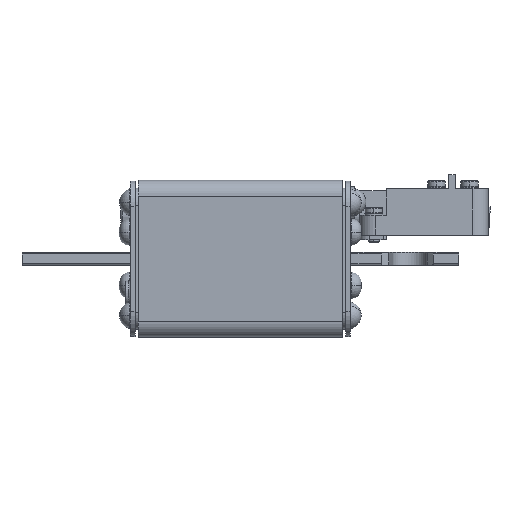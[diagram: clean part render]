
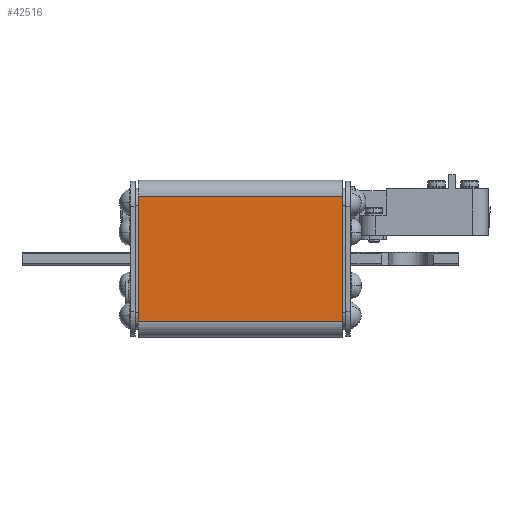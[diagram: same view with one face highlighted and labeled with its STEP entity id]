
A CAD part, left-side view. The second image highlights one B-rep face of the part: STEP entity #42516.
In plain terms, the highlighted planar face has unit normal (-1, 0, 0).
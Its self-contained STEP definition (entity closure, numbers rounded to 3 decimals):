
#2141 = DIRECTION ( 'NONE',  ( 0., 0., 1. ) ) ;
#2793 = DIRECTION ( 'NONE',  ( 1., 0., 0. ) ) ;
#2948 = CARTESIAN_POINT ( 'NONE',  ( -25., 32.5, -20. ) ) ;
#4861 = ORIENTED_EDGE ( 'NONE', *, *, #33018, .T. ) ;
#5575 = LINE ( 'NONE', #13218, #31960 ) ;
#7577 = EDGE_CURVE ( 'NONE', #12980, #41353, #30056, .T. ) ;
#8585 = VECTOR ( 'NONE', #2141, 1000. ) ;
#9300 = CARTESIAN_POINT ( 'NONE',  ( -25., 32.5, -20. ) ) ;
#10485 = CARTESIAN_POINT ( 'NONE',  ( -25., 32.5, 20. ) ) ;
#10593 = CARTESIAN_POINT ( 'NONE',  ( -25., -32.5, 20. ) ) ;
#12980 = VERTEX_POINT ( 'NONE', #10485 ) ;
#13218 = CARTESIAN_POINT ( 'NONE',  ( -25., 32.5, -20. ) ) ;
#15045 = CARTESIAN_POINT ( 'NONE',  ( -25., 32.5, 20. ) ) ;
#16027 = ORIENTED_EDGE ( 'NONE', *, *, #21252, .F. ) ;
#17333 = PLANE ( 'NONE',  #45246 ) ;
#18035 = DIRECTION ( 'NONE',  ( 0., -1., 0. ) ) ;
#18237 = CARTESIAN_POINT ( 'NONE',  ( -25., -32.5, -20. ) ) ;
#19884 = LINE ( 'NONE', #18237, #28341 ) ;
#21222 = EDGE_LOOP ( 'NONE', ( #36838, #37457, #16027, #4861 ) ) ;
#21252 = EDGE_CURVE ( 'NONE', #28418, #12980, #29954, .T. ) ;
#21860 = DIRECTION ( 'NONE',  ( 0., 0., 1. ) ) ;
#28341 = VECTOR ( 'NONE', #21860, 1000. ) ;
#28418 = VERTEX_POINT ( 'NONE', #9300 ) ;
#29954 = LINE ( 'NONE', #30373, #8585 ) ;
#30056 = LINE ( 'NONE', #15045, #35685 ) ;
#30373 = CARTESIAN_POINT ( 'NONE',  ( -25., 32.5, -20. ) ) ;
#31177 = DIRECTION ( 'NONE',  ( 0., 0., -1. ) ) ;
#31960 = VECTOR ( 'NONE', #42076, 1000. ) ;
#32500 = VERTEX_POINT ( 'NONE', #41957 ) ;
#32715 = EDGE_CURVE ( 'NONE', #32500, #41353, #19884, .T. ) ;
#33018 = EDGE_CURVE ( 'NONE', #28418, #32500, #5575, .T. ) ;
#35685 = VECTOR ( 'NONE', #18035, 1000. ) ;
#36838 = ORIENTED_EDGE ( 'NONE', *, *, #32715, .T. ) ;
#37457 = ORIENTED_EDGE ( 'NONE', *, *, #7577, .F. ) ;
#41353 = VERTEX_POINT ( 'NONE', #10593 ) ;
#41957 = CARTESIAN_POINT ( 'NONE',  ( -25., -32.5, -20. ) ) ;
#42076 = DIRECTION ( 'NONE',  ( 0., -1., 0. ) ) ;
#42516 = ADVANCED_FACE ( 'NONE', ( #43907 ), #17333, .F. ) ;
#43907 = FACE_OUTER_BOUND ( 'NONE', #21222, .T. ) ;
#45246 = AXIS2_PLACEMENT_3D ( 'NONE', #2948, #2793, #31177 ) ;
